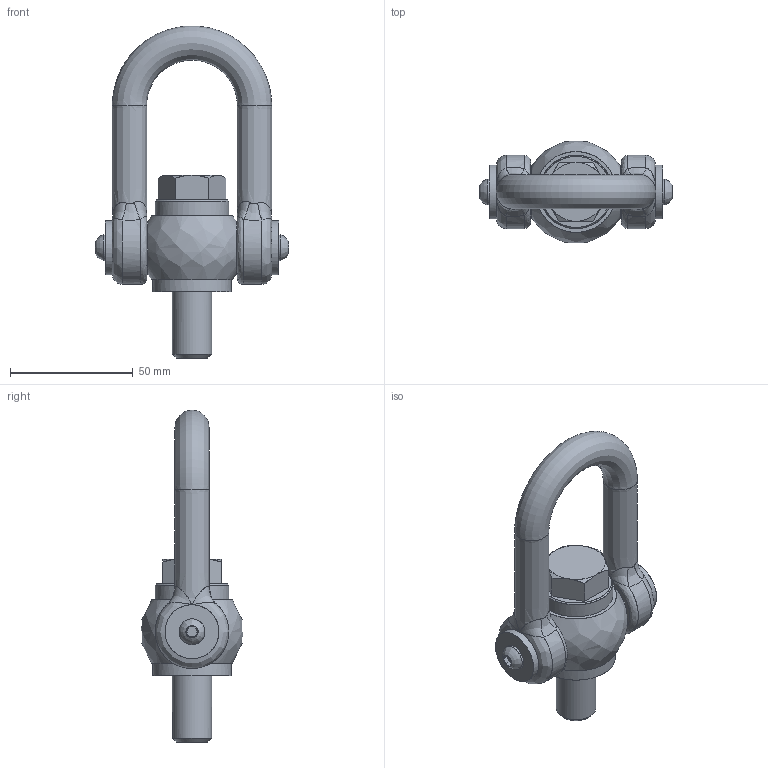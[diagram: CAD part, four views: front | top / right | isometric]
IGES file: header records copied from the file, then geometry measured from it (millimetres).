
Global section: file name: E:\UnigraphicsGraphicData\MISUMI_MOLD-PARTS\NX\3d_sleb16_00878_r00.igs; native system: NX V5.0; preprocessor: UGS NX IGES V5.0; author: MISUMI; date: 20101115.183347; units: millimetre
Bounding box: 79 x 41.3 x 135.48 mm (x, y, z)
Surface area: 25368.2 mm2 (no closed solid volume)
Topology: 0 solids, 0 shells, 79 faces, 660 edges, 629 vertices
Faces by surface type: bspline 79
